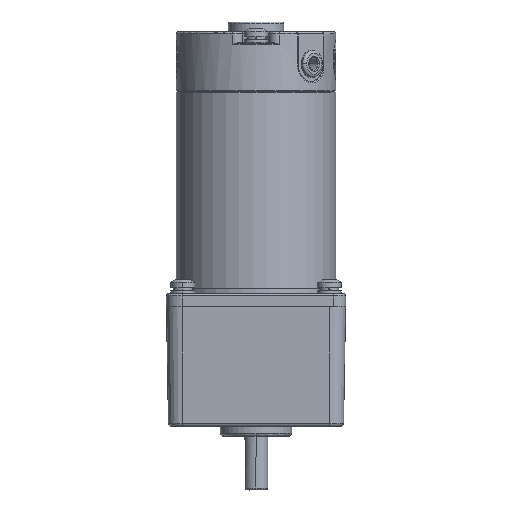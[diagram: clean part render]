
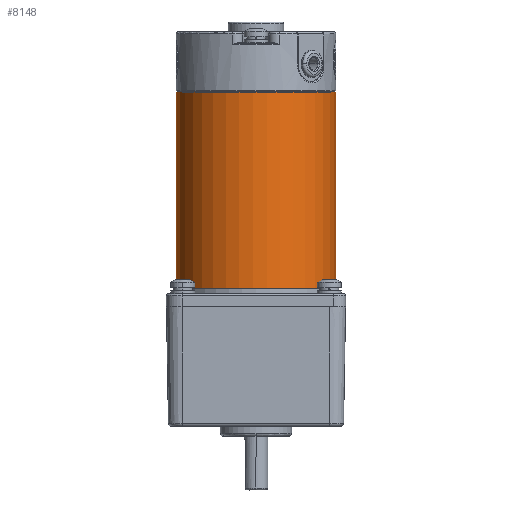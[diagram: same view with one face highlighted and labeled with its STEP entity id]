
A CAD part, left-side view. The second image highlights one B-rep face of the part: STEP entity #8148.
In plain terms, the highlighted cylindrical face has radius 40 mm (diameter 80 mm), a partial arc.
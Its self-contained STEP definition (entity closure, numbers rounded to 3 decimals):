
#136 = ORIENTED_EDGE ( 'NONE', *, *, #6518, .T. ) ;
#376 = AXIS2_PLACEMENT_3D ( 'NONE', #9273, #14204, #599 ) ;
#460 = CARTESIAN_POINT ( 'NONE',  ( 0., 98.7, 40. ) ) ;
#599 = DIRECTION ( 'NONE',  ( 0., 0., 1. ) ) ;
#1359 = VERTEX_POINT ( 'NONE', #9073 ) ;
#1625 = CARTESIAN_POINT ( 'NONE',  ( 0., 0., 0. ) ) ;
#1695 = VERTEX_POINT ( 'NONE', #5785 ) ;
#1709 = DIRECTION ( 'NONE',  ( 0., 1., 0. ) ) ;
#1838 = CARTESIAN_POINT ( 'NONE',  ( 0., 0.3, -40. ) ) ;
#1983 = LINE ( 'NONE', #4610, #11441 ) ;
#2445 = CIRCLE ( 'NONE', #3751, 40. ) ;
#2706 = DIRECTION ( 'NONE',  ( 0., 0., 1. ) ) ;
#2861 = CARTESIAN_POINT ( 'NONE',  ( 0., 98.7, 0. ) ) ;
#3333 = EDGE_LOOP ( 'NONE', ( #9872, #12867, #14873, #136, #11140, #7454 ) ) ;
#3751 = AXIS2_PLACEMENT_3D ( 'NONE', #13700, #12289, #12448 ) ;
#4027 = DIRECTION ( 'NONE',  ( 0., -1., 0. ) ) ;
#4610 = CARTESIAN_POINT ( 'NONE',  ( 0., 0., 40. ) ) ;
#4633 = EDGE_CURVE ( 'NONE', #1695, #8751, #14061, .T. ) ;
#4837 = CIRCLE ( 'NONE', #376, 40. ) ;
#4918 = EDGE_CURVE ( 'NONE', #1359, #7178, #1983, .T. ) ;
#5569 = LINE ( 'NONE', #12928, #5928 ) ;
#5785 = CARTESIAN_POINT ( 'NONE',  ( 0., 98.7, -40. ) ) ;
#5928 = VECTOR ( 'NONE', #6703, 1000. ) ;
#5931 = EDGE_CURVE ( 'NONE', #15706, #1695, #5569, .T. ) ;
#6100 = AXIS2_PLACEMENT_3D ( 'NONE', #1625, #1709, #12675 ) ;
#6386 = CYLINDRICAL_SURFACE ( 'NONE', #6100, 40. ) ;
#6518 = EDGE_CURVE ( 'NONE', #8751, #7178, #13592, .T. ) ;
#6703 = DIRECTION ( 'NONE',  ( 0., 1., 0. ) ) ;
#7178 = VERTEX_POINT ( 'NONE', #460 ) ;
#7454 = ORIENTED_EDGE ( 'NONE', *, *, #15689, .T. ) ;
#8148 = ADVANCED_FACE ( 'NONE', ( #11670 ), #6386, .T. ) ;
#8188 = DIRECTION ( 'NONE',  ( 0., 1., 0. ) ) ;
#8751 = VERTEX_POINT ( 'NONE', #11836 ) ;
#9073 = CARTESIAN_POINT ( 'NONE',  ( 0., 0.3, 40. ) ) ;
#9273 = CARTESIAN_POINT ( 'NONE',  ( 0., 0.3, 0. ) ) ;
#9599 = VERTEX_POINT ( 'NONE', #14816 ) ;
#9872 = ORIENTED_EDGE ( 'NONE', *, *, #14364, .T. ) ;
#10160 = DIRECTION ( 'NONE',  ( 0., -1., 0. ) ) ;
#11076 = DIRECTION ( 'NONE',  ( 0., 0., 1. ) ) ;
#11140 = ORIENTED_EDGE ( 'NONE', *, *, #4918, .F. ) ;
#11441 = VECTOR ( 'NONE', #8188, 1000. ) ;
#11670 = FACE_OUTER_BOUND ( 'NONE', #3333, .T. ) ;
#11836 = CARTESIAN_POINT ( 'NONE',  ( 40., 98.7, 0. ) ) ;
#12289 = DIRECTION ( 'NONE',  ( 0., 1., 0. ) ) ;
#12448 = DIRECTION ( 'NONE',  ( 0., 0., 1. ) ) ;
#12675 = DIRECTION ( 'NONE',  ( 0., 0., 1. ) ) ;
#12867 = ORIENTED_EDGE ( 'NONE', *, *, #5931, .T. ) ;
#12928 = CARTESIAN_POINT ( 'NONE',  ( 0., 0., -40. ) ) ;
#13592 = CIRCLE ( 'NONE', #14631, 40. ) ;
#13700 = CARTESIAN_POINT ( 'NONE',  ( 0., 0.3, 0. ) ) ;
#13871 = CARTESIAN_POINT ( 'NONE',  ( 0., 98.7, 0. ) ) ;
#14061 = CIRCLE ( 'NONE', #15637, 40. ) ;
#14204 = DIRECTION ( 'NONE',  ( 0., 1., 0. ) ) ;
#14364 = EDGE_CURVE ( 'NONE', #9599, #15706, #2445, .T. ) ;
#14631 = AXIS2_PLACEMENT_3D ( 'NONE', #2861, #4027, #2706 ) ;
#14816 = CARTESIAN_POINT ( 'NONE',  ( 40., 0.3, 0. ) ) ;
#14873 = ORIENTED_EDGE ( 'NONE', *, *, #4633, .T. ) ;
#15637 = AXIS2_PLACEMENT_3D ( 'NONE', #13871, #10160, #11076 ) ;
#15689 = EDGE_CURVE ( 'NONE', #1359, #9599, #4837, .T. ) ;
#15706 = VERTEX_POINT ( 'NONE', #1838 ) ;
